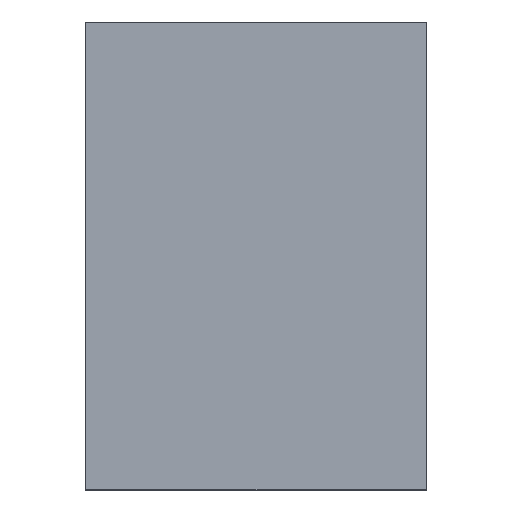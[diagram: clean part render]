
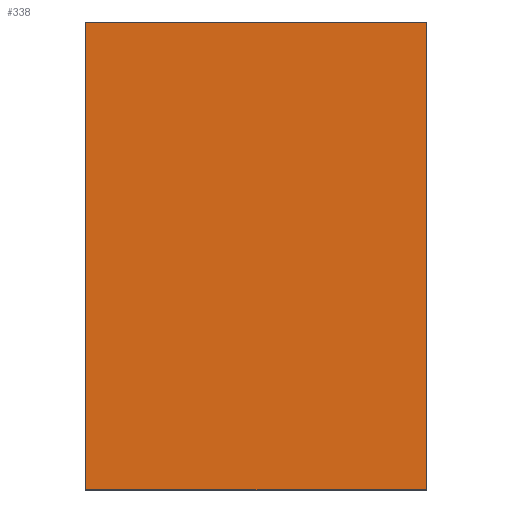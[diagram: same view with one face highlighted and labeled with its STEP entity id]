
A CAD part, top view. The second image highlights one B-rep face of the part: STEP entity #338.
In plain terms, the highlighted planar face has unit normal (0, 0, 1).
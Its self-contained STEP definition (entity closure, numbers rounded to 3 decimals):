
#24 = VERTEX_POINT('',#25);
#25 = CARTESIAN_POINT('',(-447.,-151.913,2.5));
#32 = PLANE('',#33);
#33 = AXIS2_PLACEMENT_3D('',#34,#35,#36);
#34 = CARTESIAN_POINT('',(-447.,-151.913,0.));
#35 = DIRECTION('',(1.,0.,-0.));
#36 = DIRECTION('',(0.,0.,1.));
#44 = PLANE('',#45);
#45 = AXIS2_PLACEMENT_3D('',#46,#47,#48);
#46 = CARTESIAN_POINT('',(-447.,-151.913,0.));
#47 = DIRECTION('',(-0.,1.,0.));
#48 = DIRECTION('',(0.,0.,1.));
#85 = VERTEX_POINT('',#86);
#86 = CARTESIAN_POINT('',(-447.,-140.913,2.5));
#100 = PLANE('',#101);
#101 = AXIS2_PLACEMENT_3D('',#102,#103,#104);
#102 = CARTESIAN_POINT('',(-447.,-140.913,0.));
#103 = DIRECTION('',(-0.,1.,0.));
#104 = DIRECTION('',(0.,0.,1.));
#112 = EDGE_CURVE('',#24,#85,#113,.T.);
#113 = SURFACE_CURVE('',#114,(#118,#125),.PCURVE_S1.);
#114 = LINE('',#115,#116);
#115 = CARTESIAN_POINT('',(-447.,-151.913,2.5));
#116 = VECTOR('',#117,1.);
#117 = DIRECTION('',(-0.,1.,0.));
#118 = PCURVE('',#32,#119);
#119 = DEFINITIONAL_REPRESENTATION('',(#120),#124);
#120 = LINE('',#121,#122);
#121 = CARTESIAN_POINT('',(2.5,0.));
#122 = VECTOR('',#123,1.);
#123 = DIRECTION('',(0.,-1.));
#124 = ( GEOMETRIC_REPRESENTATION_CONTEXT(2) 
PARAMETRIC_REPRESENTATION_CONTEXT() REPRESENTATION_CONTEXT('2D SPACE',''
  ) );
#125 = PCURVE('',#126,#131);
#126 = PLANE('',#127);
#127 = AXIS2_PLACEMENT_3D('',#128,#129,#130);
#128 = CARTESIAN_POINT('',(-447.,-151.913,2.5));
#129 = DIRECTION('',(0.,0.,1.));
#130 = DIRECTION('',(1.,0.,-0.));
#131 = DEFINITIONAL_REPRESENTATION('',(#132),#136);
#132 = LINE('',#133,#134);
#133 = CARTESIAN_POINT('',(0.,0.));
#134 = VECTOR('',#135,1.);
#135 = DIRECTION('',(0.,1.));
#136 = ( GEOMETRIC_REPRESENTATION_CONTEXT(2) 
PARAMETRIC_REPRESENTATION_CONTEXT() REPRESENTATION_CONTEXT('2D SPACE',''
  ) );
#144 = VERTEX_POINT('',#145);
#145 = CARTESIAN_POINT('',(-439.,-151.913,2.5));
#152 = PLANE('',#153);
#153 = AXIS2_PLACEMENT_3D('',#154,#155,#156);
#154 = CARTESIAN_POINT('',(-439.,-151.913,0.));
#155 = DIRECTION('',(1.,0.,-0.));
#156 = DIRECTION('',(0.,0.,1.));
#195 = VERTEX_POINT('',#196);
#196 = CARTESIAN_POINT('',(-439.,-140.913,2.5));
#217 = EDGE_CURVE('',#144,#195,#218,.T.);
#218 = SURFACE_CURVE('',#219,(#223,#230),.PCURVE_S1.);
#219 = LINE('',#220,#221);
#220 = CARTESIAN_POINT('',(-439.,-151.913,2.5));
#221 = VECTOR('',#222,1.);
#222 = DIRECTION('',(-0.,1.,0.));
#223 = PCURVE('',#152,#224);
#224 = DEFINITIONAL_REPRESENTATION('',(#225),#229);
#225 = LINE('',#226,#227);
#226 = CARTESIAN_POINT('',(2.5,0.));
#227 = VECTOR('',#228,1.);
#228 = DIRECTION('',(0.,-1.));
#229 = ( GEOMETRIC_REPRESENTATION_CONTEXT(2) 
PARAMETRIC_REPRESENTATION_CONTEXT() REPRESENTATION_CONTEXT('2D SPACE',''
  ) );
#230 = PCURVE('',#126,#231);
#231 = DEFINITIONAL_REPRESENTATION('',(#232),#236);
#232 = LINE('',#233,#234);
#233 = CARTESIAN_POINT('',(8.,0.));
#234 = VECTOR('',#235,1.);
#235 = DIRECTION('',(0.,1.));
#236 = ( GEOMETRIC_REPRESENTATION_CONTEXT(2) 
PARAMETRIC_REPRESENTATION_CONTEXT() REPRESENTATION_CONTEXT('2D SPACE',''
  ) );
#263 = EDGE_CURVE('',#24,#144,#264,.T.);
#264 = SURFACE_CURVE('',#265,(#269,#276),.PCURVE_S1.);
#265 = LINE('',#266,#267);
#266 = CARTESIAN_POINT('',(-447.,-151.913,2.5));
#267 = VECTOR('',#268,1.);
#268 = DIRECTION('',(1.,0.,-0.));
#269 = PCURVE('',#44,#270);
#270 = DEFINITIONAL_REPRESENTATION('',(#271),#275);
#271 = LINE('',#272,#273);
#272 = CARTESIAN_POINT('',(2.5,0.));
#273 = VECTOR('',#274,1.);
#274 = DIRECTION('',(0.,1.));
#275 = ( GEOMETRIC_REPRESENTATION_CONTEXT(2) 
PARAMETRIC_REPRESENTATION_CONTEXT() REPRESENTATION_CONTEXT('2D SPACE',''
  ) );
#276 = PCURVE('',#126,#277);
#277 = DEFINITIONAL_REPRESENTATION('',(#278),#282);
#278 = LINE('',#279,#280);
#279 = CARTESIAN_POINT('',(0.,0.));
#280 = VECTOR('',#281,1.);
#281 = DIRECTION('',(1.,0.));
#282 = ( GEOMETRIC_REPRESENTATION_CONTEXT(2) 
PARAMETRIC_REPRESENTATION_CONTEXT() REPRESENTATION_CONTEXT('2D SPACE',''
  ) );
#310 = EDGE_CURVE('',#85,#195,#311,.T.);
#311 = SURFACE_CURVE('',#312,(#316,#323),.PCURVE_S1.);
#312 = LINE('',#313,#314);
#313 = CARTESIAN_POINT('',(-447.,-140.913,2.5));
#314 = VECTOR('',#315,1.);
#315 = DIRECTION('',(1.,0.,-0.));
#316 = PCURVE('',#100,#317);
#317 = DEFINITIONAL_REPRESENTATION('',(#318),#322);
#318 = LINE('',#319,#320);
#319 = CARTESIAN_POINT('',(2.5,0.));
#320 = VECTOR('',#321,1.);
#321 = DIRECTION('',(0.,1.));
#322 = ( GEOMETRIC_REPRESENTATION_CONTEXT(2) 
PARAMETRIC_REPRESENTATION_CONTEXT() REPRESENTATION_CONTEXT('2D SPACE',''
  ) );
#323 = PCURVE('',#126,#324);
#324 = DEFINITIONAL_REPRESENTATION('',(#325),#329);
#325 = LINE('',#326,#327);
#326 = CARTESIAN_POINT('',(0.,11.));
#327 = VECTOR('',#328,1.);
#328 = DIRECTION('',(1.,0.));
#329 = ( GEOMETRIC_REPRESENTATION_CONTEXT(2) 
PARAMETRIC_REPRESENTATION_CONTEXT() REPRESENTATION_CONTEXT('2D SPACE',''
  ) );
#338 = ADVANCED_FACE('',(#339),#126,.T.);
#339 = FACE_BOUND('',#340,.T.);
#340 = EDGE_LOOP('',(#341,#342,#343,#344));
#341 = ORIENTED_EDGE('',*,*,#112,.F.);
#342 = ORIENTED_EDGE('',*,*,#263,.T.);
#343 = ORIENTED_EDGE('',*,*,#217,.T.);
#344 = ORIENTED_EDGE('',*,*,#310,.F.);
